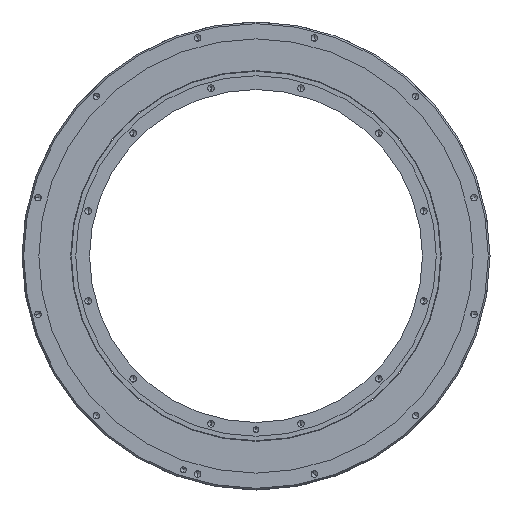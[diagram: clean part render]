
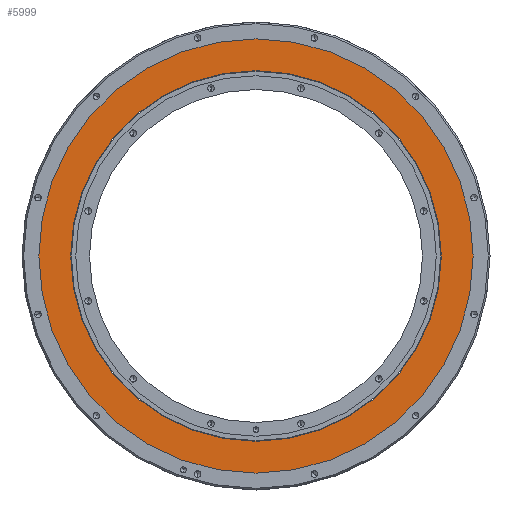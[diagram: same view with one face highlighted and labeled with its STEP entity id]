
A CAD part, front view. The second image highlights one B-rep face of the part: STEP entity #5999.
In plain terms, the highlighted planar face has unit normal (0, -1, 0).
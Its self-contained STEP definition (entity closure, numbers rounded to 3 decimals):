
#552 = ORIENTED_EDGE ( 'NONE', *, *, #4644, .F. ) ;
#623 = DIRECTION ( 'NONE',  ( 0., -1., 0. ) ) ;
#1131 = DIRECTION ( 'NONE',  ( 0., 0., -1. ) ) ;
#1193 = DIRECTION ( 'NONE',  ( 0., -1., 0. ) ) ;
#1244 = AXIS2_PLACEMENT_3D ( 'NONE', #8214, #2241, #7475 ) ;
#1450 = EDGE_CURVE ( 'NONE', #4715, #7178, #8173, .T. ) ;
#2203 = DIRECTION ( 'NONE',  ( 0., 0., -1. ) ) ;
#2241 = DIRECTION ( 'NONE',  ( 0., -1., 0. ) ) ;
#2431 = VERTEX_POINT ( 'NONE', #8085 ) ;
#2783 = AXIS2_PLACEMENT_3D ( 'NONE', #2887, #9592, #2919 ) ;
#2887 = CARTESIAN_POINT ( 'NONE',  ( 192., 1., 0. ) ) ;
#2919 = DIRECTION ( 'NONE',  ( 0., 0., -1. ) ) ;
#2941 = DIRECTION ( 'NONE',  ( 0., -1., 0. ) ) ;
#3094 = CIRCLE ( 'NONE', #3728, 192. ) ;
#3512 = EDGE_LOOP ( 'NONE', ( #552, #4465 ) ) ;
#3703 = CARTESIAN_POINT ( 'NONE',  ( 0., 1., 0. ) ) ;
#3728 = AXIS2_PLACEMENT_3D ( 'NONE', #3703, #623, #8900 ) ;
#3807 = ORIENTED_EDGE ( 'NONE', *, *, #9179, .T. ) ;
#4101 = CARTESIAN_POINT ( 'NONE',  ( 0., 1., 0. ) ) ;
#4404 = FACE_BOUND ( 'NONE', #3512, .T. ) ;
#4465 = ORIENTED_EDGE ( 'NONE', *, *, #4907, .F. ) ;
#4644 = EDGE_CURVE ( 'NONE', #2431, #7397, #6496, .T. ) ;
#4715 = VERTEX_POINT ( 'NONE', #8530 ) ;
#4851 = CARTESIAN_POINT ( 'NONE',  ( 0., 1., 225. ) ) ;
#4907 = EDGE_CURVE ( 'NONE', #7397, #2431, #3094, .T. ) ;
#5218 = CARTESIAN_POINT ( 'NONE',  ( 0., 1., 0. ) ) ;
#5999 = ADVANCED_FACE ( 'NONE', ( #9521, #4404 ), #8147, .T. ) ;
#6496 = CIRCLE ( 'NONE', #9038, 192. ) ;
#7178 = VERTEX_POINT ( 'NONE', #4851 ) ;
#7361 = CARTESIAN_POINT ( 'NONE',  ( 0., 1., 192. ) ) ;
#7397 = VERTEX_POINT ( 'NONE', #7361 ) ;
#7475 = DIRECTION ( 'NONE',  ( 0., 0., -1. ) ) ;
#7946 = AXIS2_PLACEMENT_3D ( 'NONE', #5218, #2941, #2203 ) ;
#7960 = EDGE_LOOP ( 'NONE', ( #7970, #3807 ) ) ;
#7970 = ORIENTED_EDGE ( 'NONE', *, *, #1450, .T. ) ;
#8085 = CARTESIAN_POINT ( 'NONE',  ( 0., 1., -192. ) ) ;
#8102 = CIRCLE ( 'NONE', #7946, 225. ) ;
#8147 = PLANE ( 'NONE',  #2783 ) ;
#8173 = CIRCLE ( 'NONE', #1244, 225. ) ;
#8214 = CARTESIAN_POINT ( 'NONE',  ( 0., 1., 0. ) ) ;
#8530 = CARTESIAN_POINT ( 'NONE',  ( 0., 1., -225. ) ) ;
#8900 = DIRECTION ( 'NONE',  ( 0., 0., -1. ) ) ;
#9038 = AXIS2_PLACEMENT_3D ( 'NONE', #4101, #1193, #1131 ) ;
#9179 = EDGE_CURVE ( 'NONE', #7178, #4715, #8102, .T. ) ;
#9521 = FACE_OUTER_BOUND ( 'NONE', #7960, .T. ) ;
#9592 = DIRECTION ( 'NONE',  ( 0., -1., 0. ) ) ;
